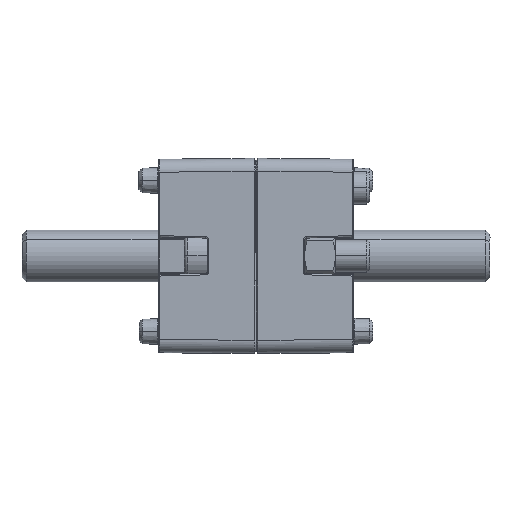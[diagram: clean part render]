
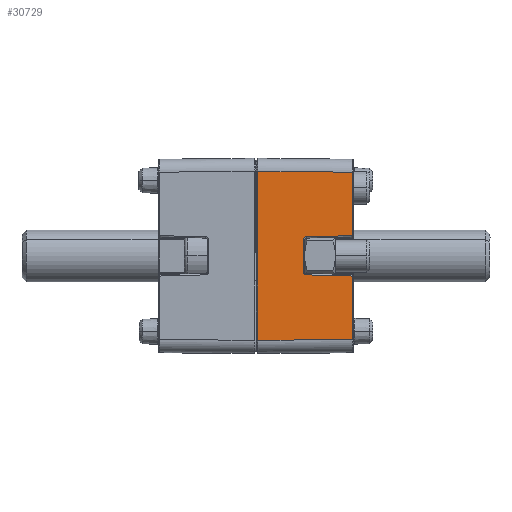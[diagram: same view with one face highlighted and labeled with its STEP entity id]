
A CAD part, top view. The second image highlights one B-rep face of the part: STEP entity #30729.
In plain terms, the highlighted planar face has unit normal (0.009, 0, 1) as drawn and (0, 0.009, 1) by its records, which use the part's own axes.
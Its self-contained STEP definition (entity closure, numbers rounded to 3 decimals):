
#237 = CARTESIAN_POINT ( 'NONE',  ( -15., 14.802, 14.871 ) ) ;
#280 = DIRECTION ( 'NONE',  ( -0.025, 1., -0.009 ) ) ;
#915 =( BOUNDED_CURVE ( )  B_SPLINE_CURVE ( 3, ( #13375, #20666, #25484, #11056 ),
 .UNSPECIFIED., .F., .F. ) 
 B_SPLINE_CURVE_WITH_KNOTS ( ( 4, 4 ),
 ( 4.695, 6.248 ),
 .UNSPECIFIED. ) 
 CURVE ( )  GEOMETRIC_REPRESENTATION_ITEM ( )  RATIONAL_B_SPLINE_CURVE ( ( 1., 0.809, 0.809, 1. ) ) 
 REPRESENTATION_ITEM ( '' )  );
#1315 = VECTOR ( 'NONE', #2459, 1000. ) ;
#2420 = LINE ( 'NONE', #9594, #27207 ) ;
#2459 = DIRECTION ( 'NONE',  ( 1., 0., 0. ) ) ;
#2560 = CARTESIAN_POINT ( 'NONE',  ( -13., -0.017, 15. ) ) ;
#3271 = CARTESIAN_POINT ( 'NONE',  ( -2.924, 7.464, 14.935 ) ) ;
#4228 = CARTESIAN_POINT ( 'NONE',  ( -12.871, 14.802, 14.871 ) ) ;
#4654 = VECTOR ( 'NONE', #22880, 1000. ) ;
#4783 = ORIENTED_EDGE ( 'NONE', *, *, #16171, .T. ) ;
#4944 = DIRECTION ( 'NONE',  ( -0.025, -1., 0.009 ) ) ;
#5001 = DIRECTION ( 'NONE',  ( -0.009, -1., 0.009 ) ) ;
#5064 = CARTESIAN_POINT ( 'NONE',  ( -2.466, 7.302, 14.936 ) ) ;
#5522 = CARTESIAN_POINT ( 'NONE',  ( -15., 7.302, 14.936 ) ) ;
#5649 = CARTESIAN_POINT ( 'NONE',  ( -12.997, 0.297, 14.997 ) ) ;
#5760 = EDGE_CURVE ( 'NONE', #19323, #17521, #10576, .T. ) ;
#6087 = CARTESIAN_POINT ( 'NONE',  ( -15., 14.802, 14.871 ) ) ;
#6463 = PLANE ( 'NONE',  #14996 ) ;
#6576 = CARTESIAN_POINT ( 'NONE',  ( -2.929, 7.695, 14.933 ) ) ;
#7515 = VERTEX_POINT ( 'NONE', #10984 ) ;
#7539 = ORIENTED_EDGE ( 'NONE', *, *, #18448, .T. ) ;
#7570 = VERTEX_POINT ( 'NONE', #4228 ) ;
#8171 = CARTESIAN_POINT ( 'NONE',  ( 3.108, 14.802, 14.871 ) ) ;
#8600 = CARTESIAN_POINT ( 'NONE',  ( 2.929, 7.695, 14.933 ) ) ;
#8677 = VERTEX_POINT ( 'NONE', #17549 ) ;
#8954 = DIRECTION ( 'NONE',  ( 0., -1., 0.009 ) ) ;
#9010 = EDGE_CURVE ( 'NONE', #7570, #26828, #13849, .T. ) ;
#9096 = VECTOR ( 'NONE', #280, 1000. ) ;
#9340 = CARTESIAN_POINT ( 'NONE',  ( 13., 0.297, 14.997 ) ) ;
#9594 = CARTESIAN_POINT ( 'NONE',  ( 2.724, -0.447, 15.004 ) ) ;
#10020 = CARTESIAN_POINT ( 'NONE',  ( -3.108, 14.802, 14.871 ) ) ;
#10576 = LINE ( 'NONE', #19456, #9096 ) ;
#10794 = VERTEX_POINT ( 'NONE', #26256 ) ;
#10984 = CARTESIAN_POINT ( 'NONE',  ( 12.997, 0.297, 14.997 ) ) ;
#11056 = CARTESIAN_POINT ( 'NONE',  ( 2.929, 7.695, 14.933 ) ) ;
#11353 = VERTEX_POINT ( 'NONE', #8171 ) ;
#12455 = DIRECTION ( 'NONE',  ( -1., 0., 0. ) ) ;
#12827 = LINE ( 'NONE', #17425, #18516 ) ;
#12842 = CARTESIAN_POINT ( 'NONE',  ( -2.466, 7.302, 14.936 ) ) ;
#13147 =( BOUNDED_CURVE ( )  B_SPLINE_CURVE ( 3, ( #17607, #3271, #27299, #12842 ),
 .UNSPECIFIED., .F., .F. ) 
 B_SPLINE_CURVE_WITH_KNOTS ( ( 4, 4 ),
 ( 3.176, 4.73 ),
 .UNSPECIFIED. ) 
 CURVE ( )  GEOMETRIC_REPRESENTATION_ITEM ( )  RATIONAL_B_SPLINE_CURVE ( ( 1., 0.809, 0.809, 1. ) ) 
 REPRESENTATION_ITEM ( '' )  );
#13239 = FACE_OUTER_BOUND ( 'NONE', #13663, .T. ) ;
#13250 = LINE ( 'NONE', #5522, #18174 ) ;
#13375 = CARTESIAN_POINT ( 'NONE',  ( 2.466, 7.302, 14.936 ) ) ;
#13663 = EDGE_LOOP ( 'NONE', ( #23216, #30828, #26475, #25698, #30080, #26360, #21132, #7539, #28817, #4783 ) ) ;
#13849 = LINE ( 'NONE', #2560, #28965 ) ;
#14996 = AXIS2_PLACEMENT_3D ( 'NONE', #20936, #23356, #8954 ) ;
#15103 = DIRECTION ( 'NONE',  ( -0.009, 1., -0.009 ) ) ;
#15307 = VERTEX_POINT ( 'NONE', #5064 ) ;
#16171 = EDGE_CURVE ( 'NONE', #26828, #7515, #20433, .T. ) ;
#16265 = EDGE_CURVE ( 'NONE', #8677, #15307, #13250, .T. ) ;
#16921 = EDGE_CURVE ( 'NONE', #10794, #11353, #17355, .T. ) ;
#17355 = LINE ( 'NONE', #6087, #4654 ) ;
#17425 = CARTESIAN_POINT ( 'NONE',  ( 12.998, 0.244, 14.998 ) ) ;
#17521 = VERTEX_POINT ( 'NONE', #10020 ) ;
#17549 = CARTESIAN_POINT ( 'NONE',  ( 2.466, 7.302, 14.936 ) ) ;
#17607 = CARTESIAN_POINT ( 'NONE',  ( -2.929, 7.695, 14.933 ) ) ;
#18174 = VECTOR ( 'NONE', #12455, 1000. ) ;
#18448 = EDGE_CURVE ( 'NONE', #17521, #7570, #21066, .T. ) ;
#18516 = VECTOR ( 'NONE', #15103, 1000. ) ;
#19323 = VERTEX_POINT ( 'NONE', #6576 ) ;
#19405 = DIRECTION ( 'NONE',  ( -1., 0., 0. ) ) ;
#19456 = CARTESIAN_POINT ( 'NONE',  ( -2.743, 0.309, 14.997 ) ) ;
#20433 = LINE ( 'NONE', #9340, #1315 ) ;
#20666 = CARTESIAN_POINT ( 'NONE',  ( 2.732, 7.302, 14.936 ) ) ;
#20936 = CARTESIAN_POINT ( 'NONE',  ( -15., 0., 15. ) ) ;
#21066 = LINE ( 'NONE', #237, #26708 ) ;
#21132 = ORIENTED_EDGE ( 'NONE', *, *, #5760, .T. ) ;
#22880 = DIRECTION ( 'NONE',  ( -1., 0., 0. ) ) ;
#23216 = ORIENTED_EDGE ( 'NONE', *, *, #30983, .T. ) ;
#23356 = DIRECTION ( 'NONE',  ( 0., 0.009, 1. ) ) ;
#24740 = EDGE_CURVE ( 'NONE', #8677, #27899, #915, .T. ) ;
#25484 = CARTESIAN_POINT ( 'NONE',  ( 2.924, 7.464, 14.935 ) ) ;
#25698 = ORIENTED_EDGE ( 'NONE', *, *, #24740, .F. ) ;
#26256 = CARTESIAN_POINT ( 'NONE',  ( 12.871, 14.802, 14.871 ) ) ;
#26360 = ORIENTED_EDGE ( 'NONE', *, *, #27820, .F. ) ;
#26475 = ORIENTED_EDGE ( 'NONE', *, *, #30319, .T. ) ;
#26708 = VECTOR ( 'NONE', #19405, 1000. ) ;
#26828 = VERTEX_POINT ( 'NONE', #5649 ) ;
#27207 = VECTOR ( 'NONE', #4944, 1000. ) ;
#27299 = CARTESIAN_POINT ( 'NONE',  ( -2.732, 7.302, 14.936 ) ) ;
#27820 = EDGE_CURVE ( 'NONE', #19323, #15307, #13147, .T. ) ;
#27899 = VERTEX_POINT ( 'NONE', #8600 ) ;
#28817 = ORIENTED_EDGE ( 'NONE', *, *, #9010, .T. ) ;
#28965 = VECTOR ( 'NONE', #5001, 1000. ) ;
#30080 = ORIENTED_EDGE ( 'NONE', *, *, #16265, .T. ) ;
#30319 = EDGE_CURVE ( 'NONE', #11353, #27899, #2420, .T. ) ;
#30729 = ADVANCED_FACE ( 'NONE', ( #13239 ), #6463, .T. ) ;
#30828 = ORIENTED_EDGE ( 'NONE', *, *, #16921, .T. ) ;
#30983 = EDGE_CURVE ( 'NONE', #7515, #10794, #12827, .T. ) ;
